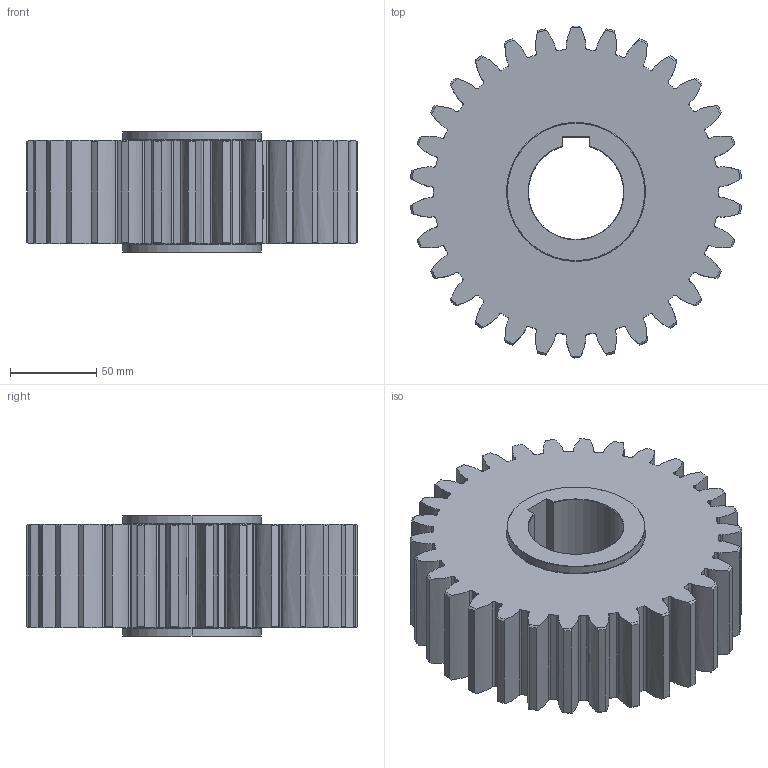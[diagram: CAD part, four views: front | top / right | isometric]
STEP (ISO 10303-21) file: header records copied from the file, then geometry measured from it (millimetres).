
FILE_DESCRIPTION (( 'STEP AP214' ), '1' );
FILE_NAME ('1SG__S060030S.STEP', '2021-08-03T07:57:07', ( '' ), ( '' ), 'SwSTEP 2.0', 'SolidWorks 2021', '' );
FILE_SCHEMA (( 'AUTOMOTIVE_DESIGN' ));
Length unit declared in the file: millimetre
Products named in the file (1): 1SG__S060030S
Bounding box: 191.36 x 191.99 x 70 mm (x, y, z)
Volume: 1385192.4 mm3; surface area: 128955.7 mm2
Topology: 1 solids, 1 shells, 314 faces, 978 edges, 668 vertices
Faces by surface type: cylinder 113, bspline 90, cone 70, plane 37, torus 4
Entity records: 20412 total; most frequent: CARTESIAN_POINT 12023, ORIENTED_EDGE 1956, DIRECTION 1548, EDGE_CURVE 978, VERTEX_POINT 668, AXIS2_PLACEMENT_3D 589, VECTOR 370, LINE 370
